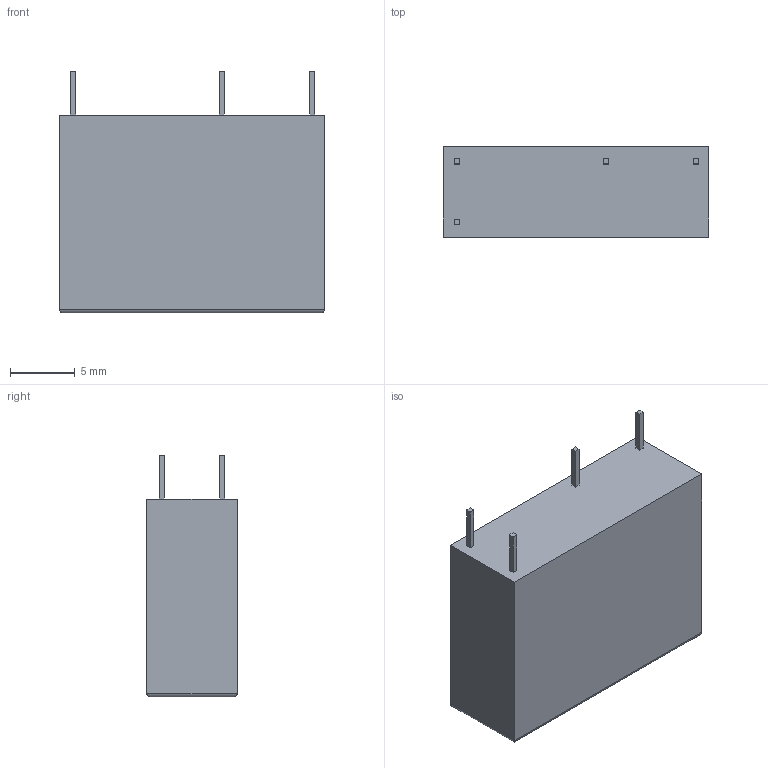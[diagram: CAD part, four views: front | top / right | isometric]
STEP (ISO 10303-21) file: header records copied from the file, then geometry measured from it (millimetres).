
FILE_DESCRIPTION(('FreeCAD Model'),'2;1');
FILE_NAME('C:/Users/Metaltex-99/Desktop/MF.stp','2021-07-16T13:57:23',( 'Engenharia Metaltex'),('Metaltex'), 'Open CASCADE STEP processor 7.3','FreeCAD','Unknown');
FILE_SCHEMA(('AUTOMOTIVE_DESIGN { 1 0 10303 214 1 1 1 1 }'));
Length unit declared in the file: millimetre
Products named in the file (6): MF; Body; Body001; Body002; Body003; Body004
Assembly tree (5 placements, depth 2):
  MF
    Body
    Body001
    Body002
    Body003
    Body004
Bounding box: 20.5 x 7 x 18.7 mm (x, y, z)
Volume: 2196.7 mm3; surface area: 1144.4 mm2
Topology: 5 solids, 5 shells, 34 faces, 68 edges, 44 vertices
Faces by surface type: plane 30, cylinder 4
Entity records: 1939 total; most frequent: CARTESIAN_POINT 352, DIRECTION 280, LINE 192, VECTOR 192, ORIENTED_EDGE 136, PCURVE 136, DEFINITIONAL_REPRESENTATION 136, EDGE_CURVE 68
